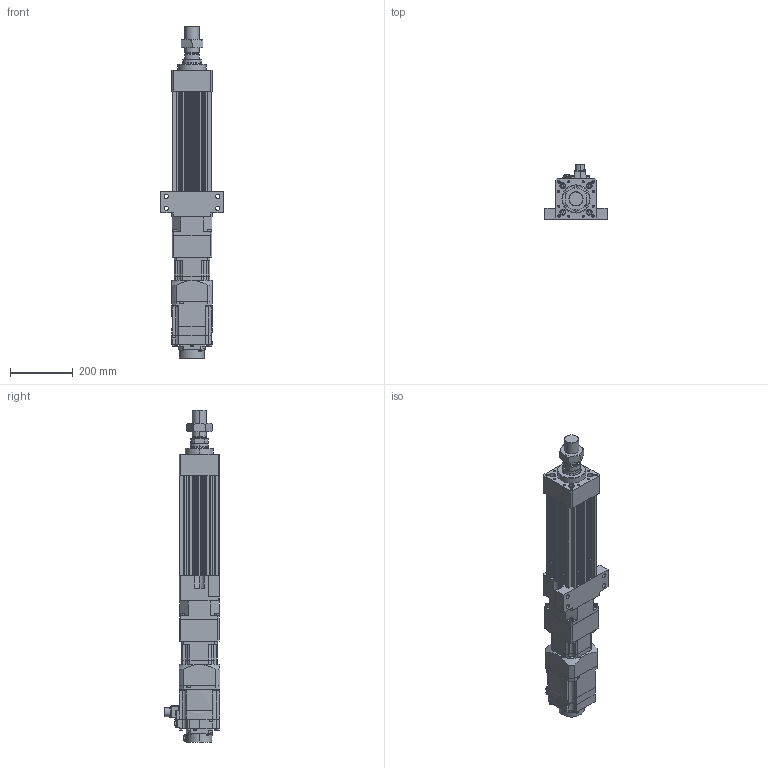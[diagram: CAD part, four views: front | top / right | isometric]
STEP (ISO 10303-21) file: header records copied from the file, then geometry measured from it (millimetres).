
FILE_DESCRIPTION (( 'STEP AP203' ), '1' );
FILE_NAME ('HES130NS(FS)(HS)-S100-W015G00-M-FFC.STEP', '2026-06-10T06:17:14', ( 'tms' ), ( '' ), 'SwSTEP 2.0', 'SolidWorks 2013', '' );
FILE_SCHEMA (( 'CONFIG_CONTROL_DESIGN' ));
Length unit declared in the file: millimetre
Products named in the file (8): AB1152; AB1151; HES130-S-G120; M45X1.5P; HES130NS(FS)(HS)-S100-W015G00-M-FFC; HES130-FFC-100; HES130-M-ROD-100; HG-SR152B
Assembly tree (7 placements, depth 2):
  HES130NS(FS)(HS)-S100-W015G00-M-FFC
    HES130-FFC-100
    HES130-M-ROD-100
    M45X1.5P
    HES130-S-G120
    AB1151
    AB1152
    HG-SR152B
Bounding box: 200 x 177.49 x 1062 mm (x, y, z)
Volume: 8467441.7 mm3; surface area: 1014326.9 mm2
Topology: 5 solids, 12 shells, 1284 faces, 3254 edges, 2103 vertices
Faces by surface type: cylinder 588, plane 584, cone 98, bspline 10, torus 4
Entity records: 40475 total; most frequent: CARTESIAN_POINT 7740, DIRECTION 7007, ORIENTED_EDGE 6432, EDGE_CURVE 3226, AXIS2_PLACEMENT_3D 2591, VERTEX_POINT 2103, LINE 1825, VECTOR 1825
